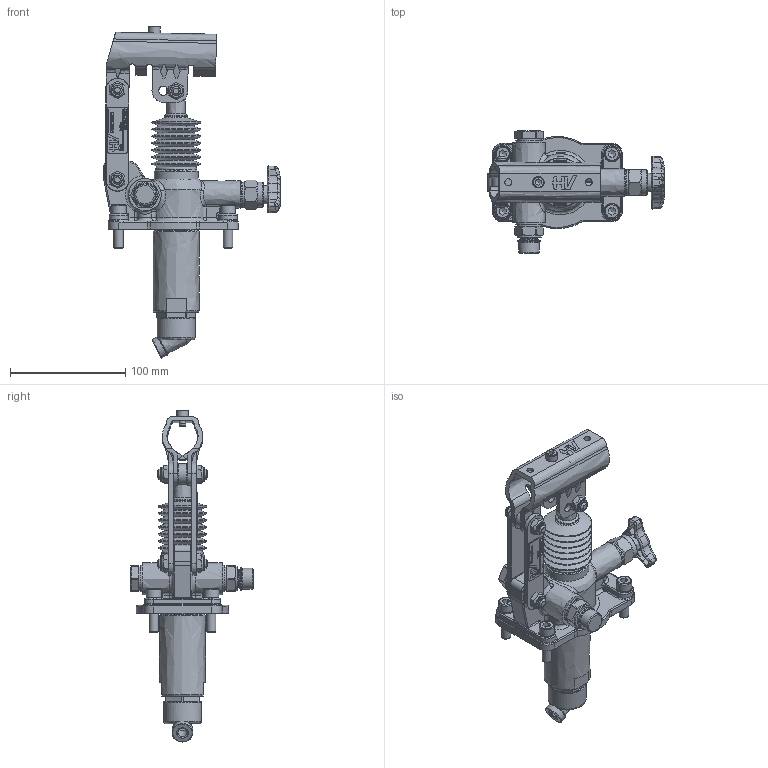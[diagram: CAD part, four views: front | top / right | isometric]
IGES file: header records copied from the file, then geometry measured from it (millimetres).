
Global section: file name: No Iges File Name specified; native system: Autodesk Inventor 2013; preprocessor: AutoDesk Inventor Iges Exporter R2013; author: christian.scardovi; date: 20240228.135345; units: millimetre
Bounding box: 153.5 x 106.5 x 288.31 mm (x, y, z)
Volume: 431114 mm3; surface area: 128562.7 mm2
Topology: 3 solids, 3 shells, 1671 faces, 4205 edges, 2631 vertices
Faces by surface type: bspline 1671
